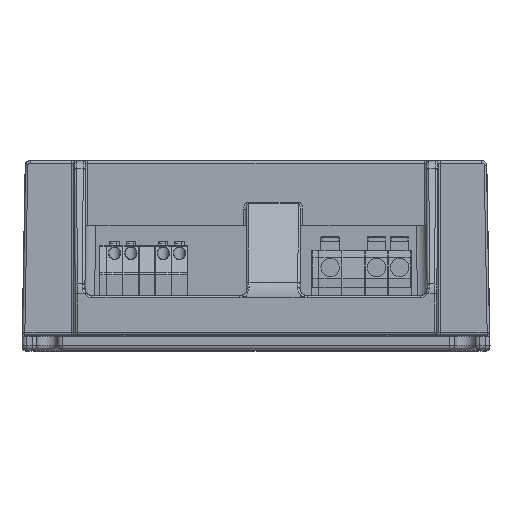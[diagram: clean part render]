
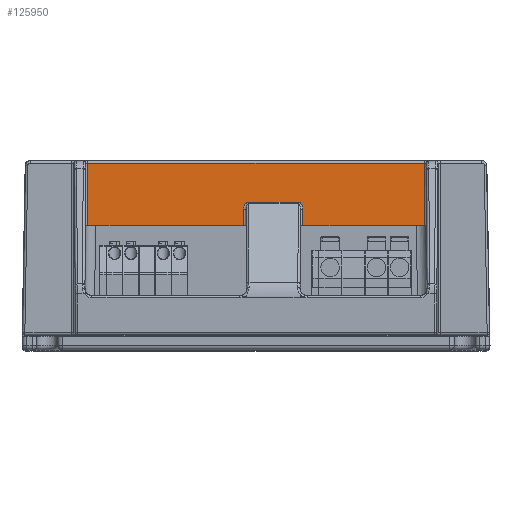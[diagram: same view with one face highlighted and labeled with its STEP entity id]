
A CAD part, top view. The second image highlights one B-rep face of the part: STEP entity #125950.
In plain terms, the highlighted planar face has unit normal (0, 0, 1).
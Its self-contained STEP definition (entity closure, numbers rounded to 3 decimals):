
#120820=CARTESIAN_POINT('',(-2.631,6.35,-15.5));
#120830=VERTEX_POINT('',#120820);
#120860=CARTESIAN_POINT('',(-2.631,6.35,-15.5));
#120870=DIRECTION('',(0.,1.,
0.));
#120880=VECTOR('',#120870,3.509);
#120890=LINE('',#120860,#120880);
#120900=CARTESIAN_POINT('',(-2.631,9.859,
-15.5));
#120910=VERTEX_POINT('',#120900);
#120920=EDGE_CURVE('',#120830,#120910,#120890,.T.);
#121250=CARTESIAN_POINT('',(10.131,6.35,-15.5));
#121260=VERTEX_POINT('',#121250);
#121290=CARTESIAN_POINT('',(36.269,6.35,-15.5));
#121300=DIRECTION('',(-1.,0.,0.));
#121310=VECTOR('',#121300,26.138);
#121320=LINE('',#121290,#121310);
#121330=CARTESIAN_POINT('',(36.269,6.35,-15.5));
#121340=VERTEX_POINT('',#121330);
#121350=EDGE_CURVE('',#121340,#121260,#121320,.T.);
#122550=CARTESIAN_POINT('',(-36.269,6.35,-15.5));
#122560=VERTEX_POINT('',#122550);
#122590=CARTESIAN_POINT('',(-2.631,6.35,-15.5));
#122600=DIRECTION('',(-1.,0.,0.));
#122610=VECTOR('',#122600,33.638);
#122620=LINE('',#122590,#122610);
#122630=EDGE_CURVE('',#120830,#122560,#122620,.T.);
#123560=CARTESIAN_POINT('',(10.131,9.859,-15.5
));
#123570=VERTEX_POINT('',#123560);
#123600=CARTESIAN_POINT('',(10.131,9.859,-15.5
));
#123610=DIRECTION('',(0.,-1.,
0.));
#123620=VECTOR('',#123610,3.509);
#123630=LINE('',#123600,#123620);
#123640=EDGE_CURVE('',#123570,#121260,#123630,.T.);
#124200=CARTESIAN_POINT('',(9.138,11.404,
-15.5));
#124210=CARTESIAN_POINT('',(9.198,11.404,-15.5))
;
#124220=CARTESIAN_POINT('',(9.318,11.388,
-15.5));
#124230=CARTESIAN_POINT('',(9.505,11.306,
-15.5));
#124240=CARTESIAN_POINT('',(9.676,11.17,
-15.5));
#124250=CARTESIAN_POINT('',(9.826,10.988,
-15.5));
#124260=CARTESIAN_POINT('',(9.951,10.764,-15.5
));
#124270=CARTESIAN_POINT('',(10.048,10.502,
-15.5));
#124280=CARTESIAN_POINT('',(10.114,10.202,
-15.5));
#124290=CARTESIAN_POINT('',(10.131,9.977,
-15.5));
#124300=CARTESIAN_POINT('',(10.131,9.859,-15.5
));
#124310=B_SPLINE_CURVE_WITH_KNOTS('',3,(#124200,#124210,#124220,#124230,
#124240,#124250,#124260,#124270,#124280,#124290,#124300),.UNSPECIFIED.,
.F.,.F.,(4,1,1,1,1,1,1,1,4),(0.,0.125,0.25,0.375,0.5,0.625,0.75,0.875,1.
),.UNSPECIFIED.);
#124320=CARTESIAN_POINT('',(9.138,11.404,
-15.5));
#124330=VERTEX_POINT('',#124320);
#124340=EDGE_CURVE('',#124330,#123570,#124310,.T.);
#124680=CARTESIAN_POINT('',(-1.638,11.404,
-15.5));
#124690=DIRECTION('',(1.,0.,0.));
#124700=VECTOR('',#124690,10.775);
#124710=LINE('',#124680,#124700);
#124720=CARTESIAN_POINT('',(-1.638,11.404,
-15.5));
#124730=VERTEX_POINT('',#124720);
#124740=EDGE_CURVE('',#124730,#124330,#124710,.T.);
#125390=CARTESIAN_POINT('',(-2.631,9.859,
-15.5));
#125400=CARTESIAN_POINT('',(-2.631,9.977,
-15.5));
#125410=CARTESIAN_POINT('',(-2.614,10.202,
-15.5));
#125420=CARTESIAN_POINT('',(-2.549,10.502,
-15.5));
#125430=CARTESIAN_POINT('',(-2.451,10.764,
-15.5));
#125440=CARTESIAN_POINT('',(-2.326,10.988,
-15.5));
#125450=CARTESIAN_POINT('',(-2.176,11.17,
-15.5));
#125460=CARTESIAN_POINT('',(-2.005,11.306,
-15.5));
#125470=CARTESIAN_POINT('',(-1.818,11.388,
-15.5));
#125480=CARTESIAN_POINT('',(-1.698,11.404,
-15.5));
#125490=CARTESIAN_POINT('',(-1.638,11.404,
-15.5));
#125500=B_SPLINE_CURVE_WITH_KNOTS('',3,(#125390,#125400,#125410,#125420,
#125430,#125440,#125450,#125460,#125470,#125480,#125490),.UNSPECIFIED.,
.F.,.F.,(4,1,1,1,1,1,1,1,4),(0.,0.125,0.25,0.375,0.5,0.625,0.75,0.875,1.
),.UNSPECIFIED.);
#125510=EDGE_CURVE('',#120910,#124730,#125500,.T.);
#125590=CARTESIAN_POINT('',(36.9,20.5,-15.5));
#125600=DIRECTION('',(0.,0.,-1.));
#125610=DIRECTION('',(-1.,0.,0.));
#125620=AXIS2_PLACEMENT_3D('',#125590,#125600,#125610);
#125630=PLANE('',#125620);
#125640=ORIENTED_EDGE('',*,*,#125510,.T.);
#125650=ORIENTED_EDGE('',*,*,#120920,.T.);
#125660=ORIENTED_EDGE('',*,*,#122630,.F.);
#125670=CARTESIAN_POINT('',(-36.269,19.871,
-15.5));
#125680=DIRECTION('',(0.,-1.,
0.));
#125690=VECTOR('',#125680,13.521);
#125700=LINE('',#125670,#125690);
#125710=CARTESIAN_POINT('',(-36.269,19.871,
-15.5));
#125720=VERTEX_POINT('',#125710);
#125730=EDGE_CURVE('',#125720,#122560,#125700,.T.);
#125740=ORIENTED_EDGE('',*,*,#125730,.T.);
#125750=CARTESIAN_POINT('',(-36.269,19.871,
-15.5));
#125760=DIRECTION('',(1.,0.,0.));
#125770=VECTOR('',#125760,72.538);
#125780=LINE('',#125750,#125770);
#125790=CARTESIAN_POINT('',(36.269,19.871,
-15.5));
#125800=VERTEX_POINT('',#125790);
#125810=EDGE_CURVE('',#125720,#125800,#125780,.T.);
#125820=ORIENTED_EDGE('',*,*,#125810,.F.);
#125830=CARTESIAN_POINT('',(36.269,6.35,-15.5));
#125840=DIRECTION('',(0.,1.,
0.));
#125850=VECTOR('',#125840,13.521);
#125860=LINE('',#125830,#125850);
#125870=EDGE_CURVE('',#121340,#125800,#125860,.T.);
#125880=ORIENTED_EDGE('',*,*,#125870,.T.);
#125890=ORIENTED_EDGE('',*,*,#121350,.F.);
#125900=ORIENTED_EDGE('',*,*,#123640,.T.);
#125910=ORIENTED_EDGE('',*,*,#124340,.T.);
#125920=ORIENTED_EDGE('',*,*,#124740,.T.);
#125930=EDGE_LOOP('',(#125920,#125910,#125900,#125890,#125880,#125820,
#125740,#125660,#125650,#125640));
#125940=FACE_OUTER_BOUND('',#125930,.T.);
#125950=ADVANCED_FACE('',(#125940),#125630,.F.);
